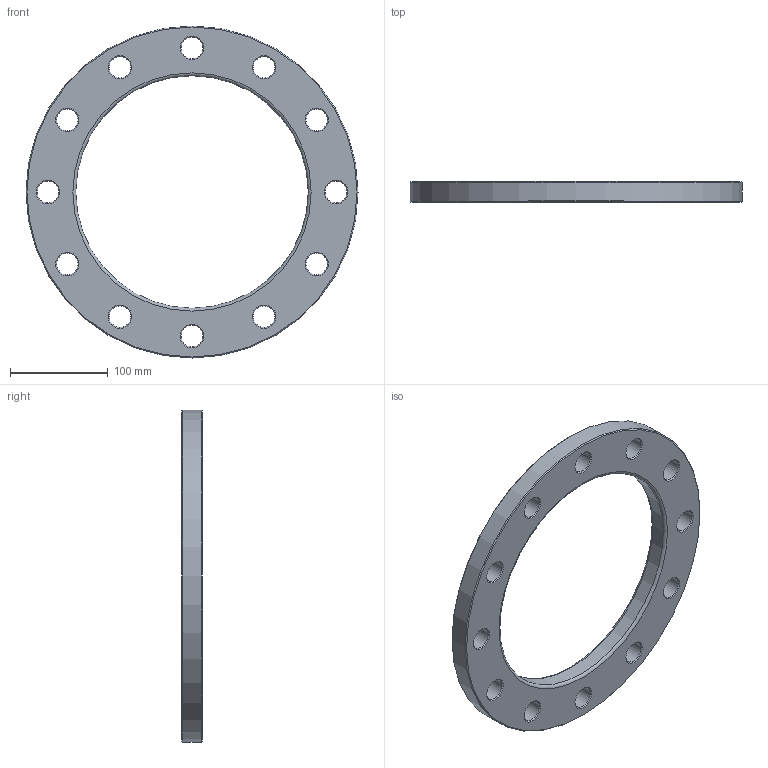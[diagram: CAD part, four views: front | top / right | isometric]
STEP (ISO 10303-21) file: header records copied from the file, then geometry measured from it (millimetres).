
FILE_DESCRIPTION(/* description */ ('Unknown'),/* implementation_level */ '2;1');
FILE_NAME(/* name */ 'FZ225C',/* time_stamp */ '2021-03-15T12:06:27+01:00',/* author */ ('Unknown'),/* organization */ ('Unknown'),/* preprocessor_version */ 'ST-DEVELOPER v16.7',/* originating_system */ 'Solid Edge',/* authorisation */ 'Unknown');
FILE_SCHEMA (('AUTOMOTIVE_DESIGN {1 0 10303 214 3 1 1}'));
Length unit declared in the file: millimetre
Products named in the file (1): FZ225C
Bounding box: 340 x 21 x 340 mm (x, y, z)
Volume: 871764.1 mm3; surface area: 134922.4 mm2
Topology: 1 solids, 1 shells, 44 faces, 134 edges, 92 vertices
Faces by surface type: cone 26, cylinder 14, plane 2, torus 2
Full cylindrical faces by diameter (mm): 22 x12, 238 x1, 340 x1
Entity records: 1086 total; most frequent: DIRECTION 202, CARTESIAN_POINT 157, ORIENTED_EDGE 112, EDGE_LOOP 112, FACE_BOUND 112, AXIS2_PLACEMENT_3D 101, EDGE_CURVE 56, VERTEX_POINT 56
